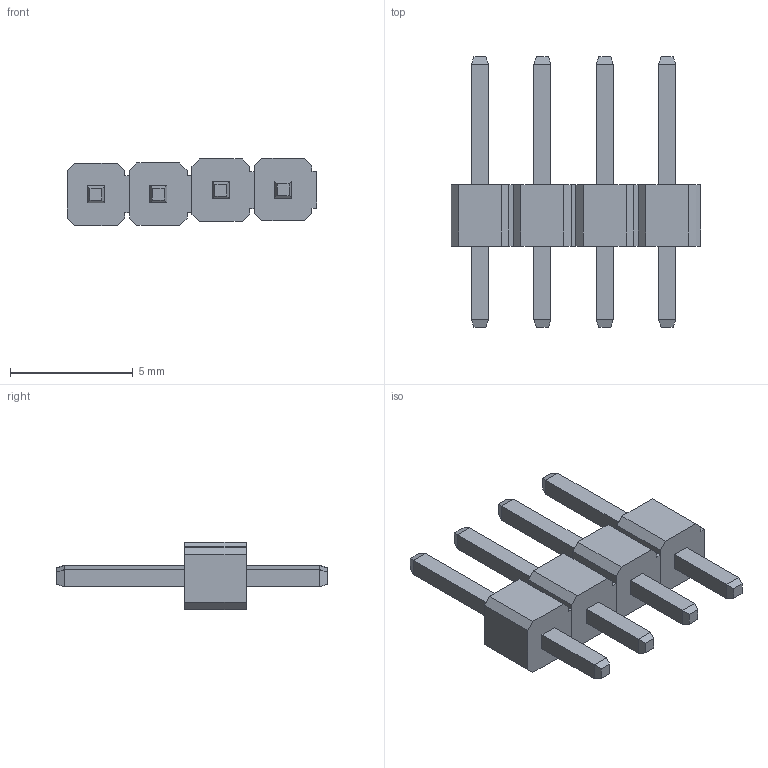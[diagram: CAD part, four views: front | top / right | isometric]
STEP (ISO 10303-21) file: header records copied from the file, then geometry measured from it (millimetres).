
FILE_DESCRIPTION (( 'STEP AP214' ), '1' );
FILE_NAME ('conector 4 pines 2.STEP', '2020-06-03T18:13:53', ( '' ), ( '' ), 'SwSTEP 2.0', 'SolidWorks 2016', '' );
FILE_SCHEMA (( 'AUTOMOTIVE_DESIGN' ));
Length unit declared in the file: millimetre
Products named in the file (3): macho; conector 4 pines 2; macho1
Assembly tree (8 placements, depth 2):
  conector 4 pines 2
    macho  x4
    macho1  x4
Bounding box: 10.16 x 11 x 2.73 mm (x, y, z)
Volume: 77 mm3; surface area: 291.5 mm2
Topology: 8 solids, 8 shells, 128 faces, 304 edges, 192 vertices
Faces by surface type: plane 128
Entity records: 1058 total; most frequent: CARTESIAN_POINT 167, DIRECTION 162, ORIENTED_EDGE 152, VECTOR 76, EDGE_CURVE 76, LINE 76, VERTEX_POINT 48, AXIS2_PLACEMENT_3D 43
